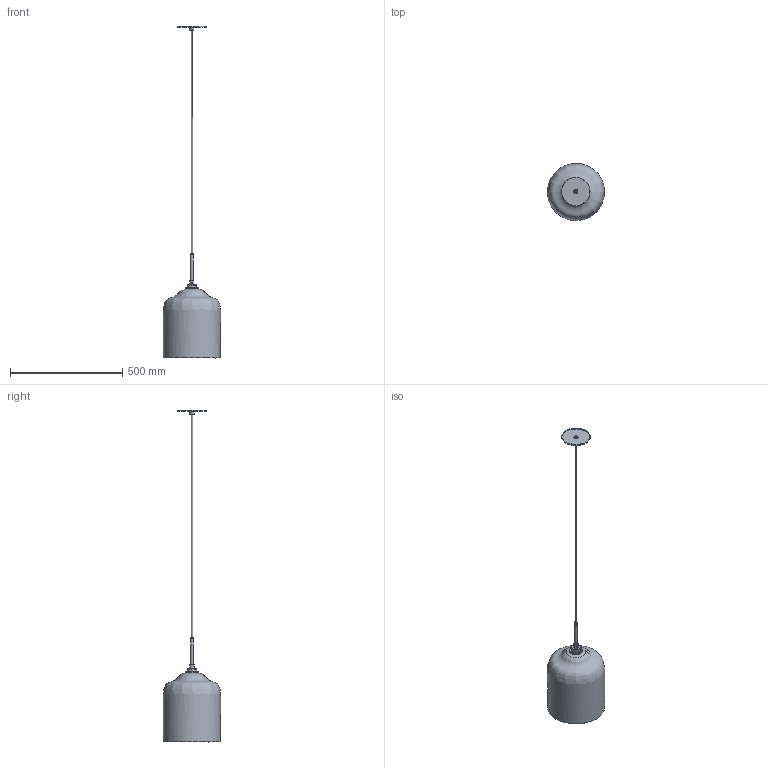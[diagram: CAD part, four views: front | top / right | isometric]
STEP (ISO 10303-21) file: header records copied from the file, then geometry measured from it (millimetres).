
FILE_DESCRIPTION(/* description */ (''),/* implementation_level */ '2;1');
FILE_NAME(/* name */ 'C:/Users/zach/Niche/Product Development - Documents/CAD Models/Pendants/Bell Jar/Glass - Luxe Hardware/Niche - Bell Jar Pendant.step',/* time_stamp */ '2022-09-27T15:33:20-04:00',/* author */ (''),/* organization */ (''),/* preprocessor_version */ 'ST-DEVELOPER v19',/* originating_system */ 'Autodesk Translation Framework v11.7.0.108',/* authorisation */ '');
FILE_SCHEMA (('AUTOMOTIVE_DESIGN { 1 0 10303 214 3 1 1 }'));
Length unit declared in the file: inch
Products named in the file (1): Bell Jar
Bounding box: 254.25 x 254.37 x 1479.04 mm (x, y, z)
Volume: 901654.6 mm3; surface area: 626454.4 mm2
Topology: 11 solids, 11 shells, 186 faces, 476 edges, 316 vertices
Faces by surface type: cylinder 123, plane 47, bspline 12, cone 3, sphere 1
Full cylindrical faces by diameter (mm): 4.529 x1, 5.08 x1, 6.096 x1, 6.35 x1, 6.5 x1, 7.62 x1, 7.744 x7, 8.036 x15, 8.852 x1, 8.884 x8, 9.035 x1, 9.146 x11, 10.16 x1, 12.7 x2, 19.05 x1, 19.2 x1, 25.4 x1, 26.022 x1, 34.97 x1, 35.052 x9, 37.85 x8, 39 x1, 39.35 x1, 41.035 x1, 41.2 x1, 41.884 x1, 44 x1, 55 x2, 125.476 x1, 127 x1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
Entity records: 15499 total; most frequent: CARTESIAN_POINT 11292, ORIENTED_EDGE 950, DIRECTION 690, EDGE_CURVE 475, VERTEX_POINT 316, AXIS2_PLACEMENT_3D 261, B_SPLINE_CURVE_WITH_KNOTS 218, EDGE_LOOP 215
